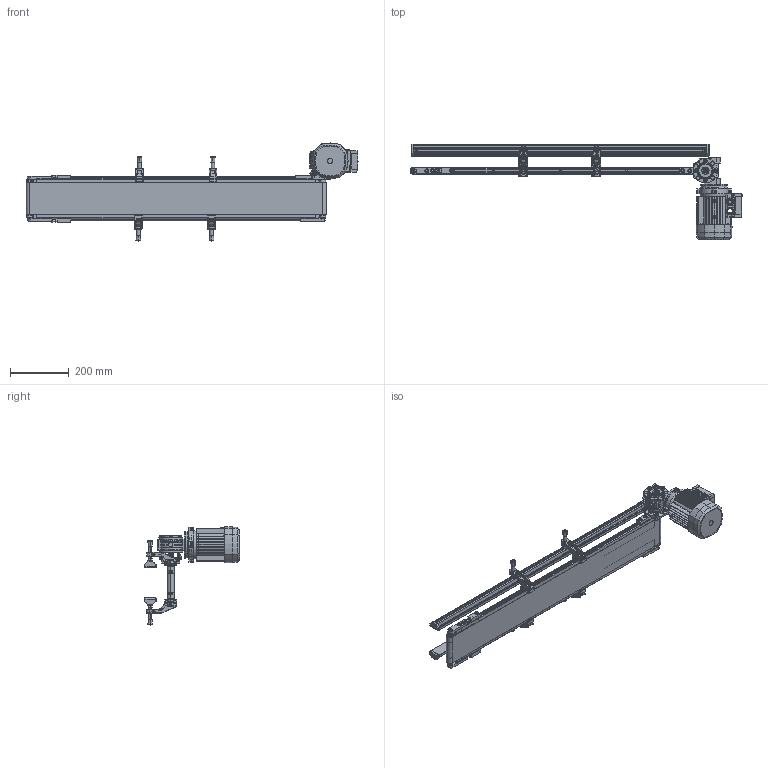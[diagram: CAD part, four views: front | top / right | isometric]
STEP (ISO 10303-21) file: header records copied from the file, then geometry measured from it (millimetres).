
FILE_DESCRIPTION (( 'STEP AP214' ), '1' );
FILE_NAME ('NASTRO_RETTILINEO_TAPPETO.step', '2026-05-07T21:52:13', ( '' ), ( '' ), 'SwSTEP 2.0', 'SolidWorks 2024', '' );
FILE_SCHEMA (( 'AUTOMOTIVE_DESIGN' ));
Length unit declared in the file: millimetre
Products named in the file (38): 084.800.008; CH03F_DX; 084.301.000 VITI ALUSIC_084.301.002; 084.711.010; 084.711.006_PER CAVA 8 PERNO ALTO 1; DADI ESAGONALI NORMALI UNI 5588_M6 UNI 5588; 084.301.000 VITI ALUSIC_084.301.003; BLOCCO_TRAINO_20_STANDARD; TPU12-9; 084.800.001-1; VITI TSEI UNI 5933_M5x12 UNI 5933; LAMIERA_STANDARD; SPONDA_Default<A macchina>; RULLO_20; TAPPETO_STANDARD; NASTRO_RETTILINEO_TAPPETO; BLOCCO_RINVIO_20_STANDARD; 084.302.000 DADI ALUSIC 13x13-1_084.302.007; 084.302.000 DADI ALUSIC 13x13-1_084.302.004; 084.802.016_084.802.016; 084.711.006_L2; RULLO_20_TRAINO_30_DX; VITE_RONDELLA_M8X20; 084.800.007; TELAIO_20_STANDARD_Default<A macchina>; 084.711.005; 084.711.006_L1; BLOCCO_TRAINO_20_STANDARD_30; 08UNI7435; 084.800.012; 084.712.002; 084.303.001; 084.800.002; 084.802.008; BLOCCO_PERNO_20_RINVIO; VITE_DADO_M5X12; 084.711.007
Assembly tree (74 placements, depth 3):
  NASTRO_RETTILINEO_TAPPETO
    TAPPETO_STANDARD
    TELAIO_20_STANDARD_Default<A macchina>
    LAMIERA_STANDARD
    RULLO_20_TRAINO_30_DX
    BLOCCO_TRAINO_20_STANDARD_30
      084.800.001-1
      084.802.016_084.802.016
      084.301.000 VITI ALUSIC_084.301.003  x2
      084.302.000 DADI ALUSIC 13x13-1_084.302.004  x2
    BLOCCO_PERNO_20_RINVIO  x3
      084.800.012
      084.800.008
      084.800.007
      08UNI7435
    BLOCCO_TRAINO_20_STANDARD
      084.800.002
      084.301.000 VITI ALUSIC_084.301.002  x2
      084.302.000 DADI ALUSIC 13x13-1_084.302.004  x2
      TPU12-9
    RULLO_20
    BLOCCO_RINVIO_20_STANDARD  x2
      084.802.008
      084.301.000 VITI ALUSIC_084.301.002
      084.302.000 DADI ALUSIC 13x13-1_084.302.004
      084.800.002
      TPU12-9
    SPONDA_Default<A macchina>  x2
    084.711.006_PER CAVA 8 PERNO ALTO 1  x4
      084.711.006_L1
      084.711.006_L2
      084.711.007
      084.711.005
      084.711.010
      DADI ESAGONALI NORMALI UNI 5588_M6 UNI 5588
    084.712.002  x4
    VITE_RONDELLA_M8X20  x7
      084.303.001
      084.301.000 VITI ALUSIC_084.301.003
    VITE_DADO_M5X12  x8
      084.302.000 DADI ALUSIC 13x13-1_084.302.007
      VITI TSEI UNI 5933_M5x12 UNI 5933
    CH03F_DX
Bounding box: 1131.98 x 325 x 334.31 mm (x, y, z)
Volume: 3924401.4 mm3; surface area: 2118744.5 mm2
Topology: 136 solids, 137 shells, 4778 faces, 11876 edges, 7424 vertices
Faces by surface type: plane 1866, cylinder 1632, torus 440, cone 406, bspline 342, sphere 92
Entity records: 98671 total; most frequent: CARTESIAN_POINT 37766, ORIENTED_EDGE 13094, DIRECTION 11705, EDGE_CURVE 6547, AXIS2_PLACEMENT_3D 4533, VERTEX_POINT 4162, EDGE_LOOP 2773, LINE 2639
